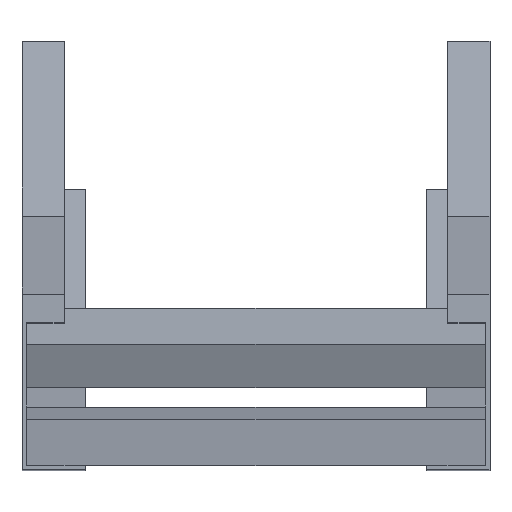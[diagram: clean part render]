
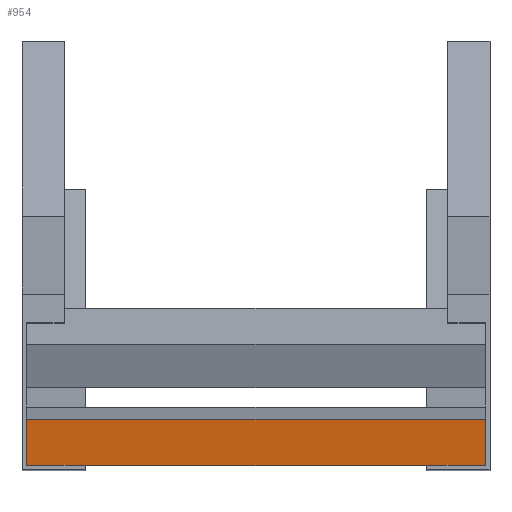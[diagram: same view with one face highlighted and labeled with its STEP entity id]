
A CAD part, top view. The second image highlights one B-rep face of the part: STEP entity #954.
In plain terms, the highlighted planar face has unit normal (0, -0.131, 0.991) as drawn and (0, 0, 1) by its records, which use the part's own axes.
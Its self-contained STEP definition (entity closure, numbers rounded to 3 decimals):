
#53 = VECTOR ( 'NONE', #1492, 1000. ) ;
#125 = CARTESIAN_POINT ( 'NONE',  ( 98., 20., 20.25 ) ) ;
#147 = DIRECTION ( 'NONE',  ( 0., -1., 0. ) ) ;
#153 = VECTOR ( 'NONE', #147, 1000. ) ;
#183 = EDGE_CURVE ( 'NONE', #567, #656, #362, .T. ) ;
#197 = CARTESIAN_POINT ( 'NONE',  ( -98., 20., 20.25 ) ) ;
#217 = EDGE_LOOP ( 'NONE', ( #757, #612, #476, #244 ) ) ;
#244 = ORIENTED_EDGE ( 'NONE', *, *, #183, .T. ) ;
#251 = LINE ( 'NONE', #1357, #1248 ) ;
#252 = VERTEX_POINT ( 'NONE', #809 ) ;
#271 = DIRECTION ( 'NONE',  ( 0., 1., 0. ) ) ;
#272 = EDGE_CURVE ( 'NONE', #738, #252, #251, .T. ) ;
#362 = LINE ( 'NONE', #1390, #53 ) ;
#377 = CARTESIAN_POINT ( 'NONE',  ( 98., 20., 20.25 ) ) ;
#476 = ORIENTED_EDGE ( 'NONE', *, *, #927, .F. ) ;
#486 = CARTESIAN_POINT ( 'NONE',  ( 98., 20., 20.25 ) ) ;
#567 = VERTEX_POINT ( 'NONE', #125 ) ;
#581 = VECTOR ( 'NONE', #1410, 1000. ) ;
#606 = FACE_OUTER_BOUND ( 'NONE', #217, .T. ) ;
#612 = ORIENTED_EDGE ( 'NONE', *, *, #272, .F. ) ;
#656 = VERTEX_POINT ( 'NONE', #197 ) ;
#712 = LINE ( 'NONE', #486, #581 ) ;
#723 = CARTESIAN_POINT ( 'NONE',  ( -98., 20., 20.25 ) ) ;
#738 = VERTEX_POINT ( 'NONE', #1175 ) ;
#757 = ORIENTED_EDGE ( 'NONE', *, *, #963, .T. ) ;
#809 = CARTESIAN_POINT ( 'NONE',  ( -98., 0., 20.25 ) ) ;
#819 = DIRECTION ( 'NONE',  ( -1., 0., 0. ) ) ;
#927 = EDGE_CURVE ( 'NONE', #567, #738, #712, .T. ) ;
#954 = ADVANCED_FACE ( 'NONE', ( #606 ), #1294, .F. ) ;
#963 = EDGE_CURVE ( 'NONE', #656, #252, #1064, .T. ) ;
#1064 = LINE ( 'NONE', #723, #153 ) ;
#1175 = CARTESIAN_POINT ( 'NONE',  ( 98., 0., 20.25 ) ) ;
#1248 = VECTOR ( 'NONE', #819, 1000. ) ;
#1294 = PLANE ( 'NONE',  #1458 ) ;
#1357 = CARTESIAN_POINT ( 'NONE',  ( 98., 0., 20.25 ) ) ;
#1390 = CARTESIAN_POINT ( 'NONE',  ( 98., 20., 20.25 ) ) ;
#1396 = DIRECTION ( 'NONE',  ( 0., 0., -1. ) ) ;
#1410 = DIRECTION ( 'NONE',  ( 0., -1., 0. ) ) ;
#1458 = AXIS2_PLACEMENT_3D ( 'NONE', #377, #1396, #271 ) ;
#1492 = DIRECTION ( 'NONE',  ( -1., 0., 0. ) ) ;
